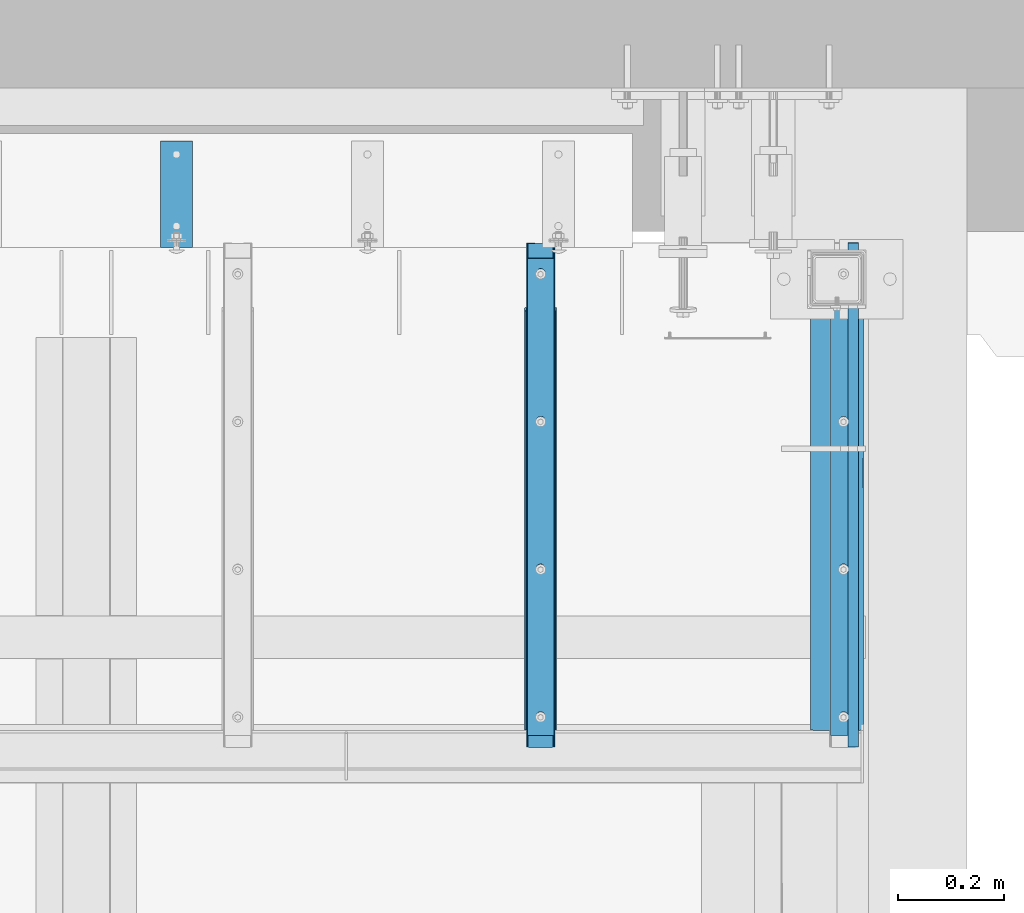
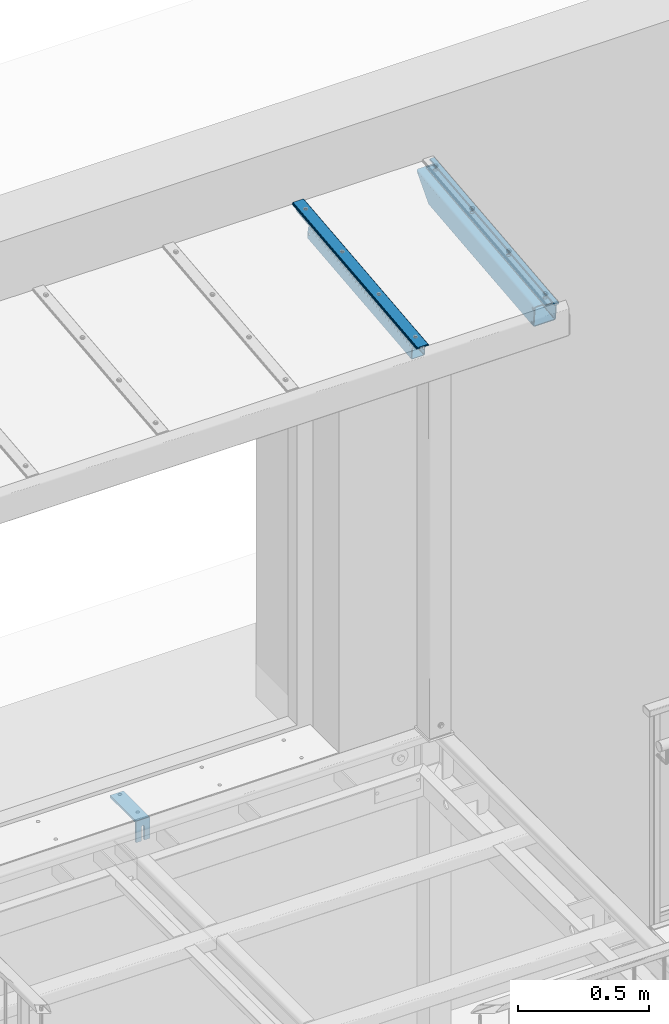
# One storey, part 20 of 116: 6 members, 1 beam, 17 openings.
"""IFC2X3 building model written with IfcOpenShell, lengths in millimetres."""

from ifc_helpers import new_model, entity, si_unit, converted_unit, point, frame, frame_2d, origin, origin_with_axes, origin_2d, origin_2d_with_axis, place, context, project, spatial, polyline, circle_curve, line_curve, trimmed, segment, composite_curve, rectangle, hollow_rectangle, circle, outline, extrude, clip, halfspace, material, element, save


model = new_model("IFC2X3")

# Units and contexts
model_context = context("Model", 3, precision=1e-09, world=origin_with_axes())
ifc_project = project(units=[si_unit("LENGTHUNIT", "METRE", prefix="MILLI"), si_unit("AREAUNIT", "SQUARE_METRE"), si_unit("VOLUMEUNIT", "CUBIC_METRE"), converted_unit("PLANEANGLEUNIT", "DEGREE", entity("IfcPlaneAngleMeasure", 0.01745329), si_unit("PLANEANGLEUNIT", "RADIAN"), dimensions=[0, 0, 0, 0, 0, 0, 0])], contexts=[model_context])

# Site, building, storey
site_placement = place(None, origin_with_axes())
site = spatial("IfcSite", under=ifc_project, at=site_placement, Name="Site", CompositionType="ELEMENT")
building_placement = place(site_placement, origin_with_axes())
building = spatial("IfcBuilding", under=site, at=building_placement, Name="Struktur 1", CompositionType="ELEMENT")
storey_placement = place(building_placement, origin_with_axes())
storey = spatial("IfcBuildingStorey", under=building, at=storey_placement, Name="Default Storey", CompositionType="ELEMENT", Elevation=0.0)

# Member, openings
ifc_material_1 = material(Name="S235JR")
member_1_placement = place(None, frame((58167.049134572, 12067.455432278, 2549.767412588), z_axis=(0.0, 0.994521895, 0.104528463), x_axis=(0.0, -0.104528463, 0.994521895)))
member_1 = element("IfcMember", 1, at=member_1_placement, inside=storey, material=ifc_material_1, Name="-", ObjectType="-", context=model_context, shape_type="Clipping", body=[
    clip(extrude(hollow_rectangle(XDim=100.0, YDim=100.0, WallThickness=4.0, InnerFilletRadius=4.0, OuterFilletRadius=8.0, at=origin_2d()), origin(), (0.0, 0.0, -1.0), 955.603150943), halfspace(frame((-6618.382172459, -58167.049134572, -7456.135013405), z_axis=(0.743144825, 0.0, -0.669130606), x_axis=(0.0, 1.0, 0.0)), True)),
])
opening_1_placement = place(member_1_placement, frame((28.999, -45.5, -945.603150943), z_axis=(0.0, 1.0, 0.0), x_axis=(-1.0, 0.0, 0.0)))
element("IfcOpeningElement", 2, at=opening_1_placement, cuts=member_1, ObjectType="Opening", context=model_context, shape_type="SweptSolid", body=[
    extrude(circle(Radius=6.001, at=frame_2d((-6.001, 0.0), x_axis=(1.0, 0.0))), origin(), (0.0, 0.0, -1.0), 5.0),
])
opening_2_placement = place(member_1_placement, frame((-41.001, -45.5, -945.603150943), z_axis=(0.0, 1.0, 0.0), x_axis=(-1.0, 0.0, 0.0)))
element("IfcOpeningElement", 3, at=opening_2_placement, cuts=member_1, ObjectType="Opening", context=model_context, shape_type="SweptSolid", body=[
    extrude(circle(Radius=6.001, at=frame_2d((-6.001, 0.0), x_axis=(1.0, 0.0))), origin(), (0.0, 0.0, -1.0), 5.0),
])

# Member
ifc_material_2 = material(Name="Alu")
member_2_placement = place(None, frame((58197.549134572, 12030.977969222, 2604.011634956), z_axis=(0.0, -0.994521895, -0.104528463), x_axis=(0.0, -0.104528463, 0.994521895)))
element("IfcMember", 4, at=member_2_placement, inside=storey, material=ifc_material_2, Name="-", ObjectType="-", context=model_context, shape_type="SweptSolid", body=[
    extrude(rectangle(XDim=8.0, YDim=20.0, at=origin_2d()), origin(), (0.0, 0.0, 1.0), 954.99558045),
])

# Member, openings
member_3_placement = place(None, frame((57608.549134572, 11905.637117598, 2552.869787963), z_axis=(0.0, 0.994521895, 0.104528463), x_axis=(0.0, -0.104528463, 0.994521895)))
member_3 = element("IfcMember", 5, at=member_3_placement, inside=storey, material=ifc_material_1, Name="-", ObjectType="-", context=model_context, shape_type="SweptSolid", body=[
    extrude(hollow_rectangle(XDim=60.0, YDim=60.0, WallThickness=3.0, InnerFilletRadius=3.0, OuterFilletRadius=6.0, at=origin_2d()), origin(), (0.0, 0.0, -1.0), 794.995580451),
])
opening_3_placement = place(member_3_placement, frame((0.0, -26.5, 0.0), z_axis=(0.0, -1.0, 0.0), x_axis=(1.0, 0.0, 0.0)))
element("IfcOpeningElement", 6, at=opening_3_placement, cuts=member_3, ObjectType="Opening", context=model_context, shape_type="SweptSolid", body=[
    extrude(circle(Radius=6.001, at=frame_2d((0.0, -10.0), x_axis=(1.0, 0.0))), origin(), (0.0, 0.0, 1.0), 4.0),
])
opening_4_placement = place(member_3_placement, frame((0.0, 26.5, -794.995580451), z_axis=(0.0, 1.0, 0.0), x_axis=(1.0, 0.0, 0.0)))
element("IfcOpeningElement", 7, at=opening_4_placement, cuts=member_3, ObjectType="Opening", context=model_context, shape_type="SweptSolid", body=[
    extrude(circle(Radius=6.001, at=frame_2d((0.0, -10.0), x_axis=(1.0, 0.0))), origin(), (0.0, 0.0, 1.0), 4.0),
])

member_4_placement = place(None, frame((57608.549134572, 11101.758740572, 2500.052276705), z_axis=(0.0, -0.994521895, -0.104528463), x_axis=(1.0, 0.0, 0.0)))
member_4 = element("IfcMember", 8, at=member_4_placement, inside=storey, material=ifc_material_1, Name="-", ObjectType="-", context=model_context, shape_type="SweptSolid", body=[
    extrude(outline(polyline([(-25.0, 1.5), (-25.0, -1.5), (25.0, -1.5), (25.0, 1.5), (-25.0, 1.5)])), origin(), (0.0, 0.0, -1.0), 904.995580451),
])
opening_5_placement = place(member_4_placement, frame((2e-09, -2.0, -597.497790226), z_axis=(0.0, 1.0, 0.0), x_axis=(1.0, 0.0, 0.0)))
element("IfcOpeningElement", 9, at=opening_5_placement, cuts=member_4, ObjectType="Opening", context=model_context, shape_type="SweptSolid", body=[
    extrude(circle(Radius=8.001, at=origin_2d_with_axis()), origin(), (0.0, 0.0, 1.0), 4.0),
])
opening_6_placement = place(member_4_placement, frame((2e-09, -2.0, -37.497790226), z_axis=(0.0, 1.0, 0.0), x_axis=(1.0, 0.0, 0.0)))
element("IfcOpeningElement", 10, at=opening_6_placement, cuts=member_4, ObjectType="Opening", context=model_context, shape_type="SweptSolid", body=[
    extrude(circle(Radius=8.001, at=origin_2d_with_axis()), origin(), (0.0, 0.0, 1.0), 4.0),
])
opening_7_placement = place(member_4_placement, frame((2e-09, -2.0, -877.497790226), z_axis=(0.0, 1.0, 0.0), x_axis=(1.0, 0.0, 0.0)))
element("IfcOpeningElement", 11, at=opening_7_placement, cuts=member_4, ObjectType="Opening", context=model_context, shape_type="SweptSolid", body=[
    extrude(circle(Radius=8.001, at=origin_2d_with_axis()), origin(), (0.0, 0.0, 1.0), 4.0),
])
opening_8_placement = place(member_4_placement, frame((2e-09, -2.0, -317.497790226), z_axis=(0.0, 1.0, 0.0), x_axis=(1.0, 0.0, 0.0)))
element("IfcOpeningElement", 12, at=opening_8_placement, cuts=member_4, ObjectType="Opening", context=model_context, shape_type="SweptSolid", body=[
    extrude(circle(Radius=8.001, at=origin_2d_with_axis()), origin(), (0.0, 0.0, 1.0), 4.0),
])

member_5_placement = place(None, frame((57608.549134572, 11080.325462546, 2512.640850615), z_axis=(0.0, -0.994521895, -0.104528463), x_axis=(1.0, 0.0, 0.0)))
member_5 = element("IfcMember", 13, at=member_5_placement, inside=storey, material=ifc_material_1, Name="-", ObjectType="-", context=model_context, shape_type="SweptSolid", body=[
    extrude(outline(composite_curve([segment(trimmed(line_curve((10.75, -4.5), (1.0, 0.0), 0.5), [point((10.75, -4.5))], [point((11.25, -4.5))], True, "CARTESIAN"), True, "CONTINUOUS"), segment(trimmed(line_curve((11.25, -4.5), (0.0, 1.0), 1.0), [point((11.25, -4.5))], [point((11.25, -3.5))], True, "CARTESIAN"), True, "CONTINUOUS"), segment(trimmed(line_curve((11.25, -3.5), (1.0, 0.0), 1.0), [point((11.25, -3.5))], [point((12.25, -3.5))], True, "CARTESIAN"), True, "CONTINUOUS"), segment(trimmed(line_curve((12.25, -3.5), (0.0, -1.0), 1.0), [point((12.25, -3.5))], [point((12.25, -4.5))], True, "CARTESIAN"), True, "CONTINUOUS"), segment(trimmed(line_curve((12.25, -4.5), (1.0, 0.0), 1.0), [point((12.25, -4.5))], [point((13.25, -4.5))], True, "CARTESIAN"), True, "CONTINUOUS"), segment(trimmed(line_curve((13.25, -4.5), (0.0, 1.0), 1.0), [point((13.25, -4.5))], [point((13.25, -3.5))], True, "CARTESIAN"), True, "CONTINUOUS"), segment(trimmed(line_curve((13.25, -3.5), (1.0, 0.0), 1.0), [point((13.25, -3.5))], [point((14.25, -3.5))], True, "CARTESIAN"), True, "CONTINUOUS"), segment(trimmed(line_curve((14.25, -3.5), (0.0, -1.0), 1.0), [point((14.25, -3.5))], [point((14.25, -4.5))], True, "CARTESIAN"), True, "CONTINUOUS"), segment(trimmed(line_curve((14.25, -4.5), (1.0, 0.0), 1.0), [point((14.25, -4.5))], [point((15.25, -4.5))], True, "CARTESIAN"), True, "CONTINUOUS"), segment(trimmed(line_curve((15.25, -4.5), (0.0, 1.0), 1.0), [point((15.25, -4.5))], [point((15.25, -3.5))], True, "CARTESIAN"), True, "CONTINUOUS"), segment(trimmed(line_curve((15.25, -3.5), (1.0, 0.0), 1.0), [point((15.25, -3.5))], [point((16.25, -3.5))], True, "CARTESIAN"), True, "CONTINUOUS"), segment(trimmed(line_curve((16.25, -3.5), (0.0, -1.0), 1.0), [point((16.25, -3.5))], [point((16.25, -4.5))], True, "CARTESIAN"), True, "CONTINUOUS"), segment(trimmed(line_curve((16.25, -4.5), (1.0, 0.0), 1.0), [point((16.25, -4.5))], [point((17.25, -4.5))], True, "CARTESIAN"), True, "CONTINUOUS"), segment(trimmed(line_curve((17.25, -4.5), (0.0, 1.0), 1.0), [point((17.25, -4.5))], [point((17.25, -3.5))], True, "CARTESIAN"), True, "CONTINUOUS"), segment(trimmed(line_curve((17.25, -3.5), (1.0, 0.0), 1.0), [point((17.25, -3.5))], [point((18.25, -3.5))], True, "CARTESIAN"), True, "CONTINUOUS"), segment(trimmed(line_curve((18.25, -3.5), (0.0, -1.0), 1.0), [point((18.25, -3.5))], [point((18.25, -4.5))], True, "CARTESIAN"), True, "CONTINUOUS"), segment(trimmed(line_curve((18.25, -4.5), (1.0, 0.0), 1.0), [point((18.25, -4.5))], [point((19.25, -4.5))], True, "CARTESIAN"), True, "CONTINUOUS"), segment(trimmed(line_curve((19.25, -4.5), (0.0, 1.0), 1.0), [point((19.25, -4.5))], [point((19.25, -3.5))], True, "CARTESIAN"), True, "CONTINUOUS"), segment(trimmed(line_curve((19.25, -3.5), (1.0, 0.0), 1.0), [point((19.25, -3.5))], [point((20.25, -3.5))], True, "CARTESIAN"), True, "CONTINUOUS"), segment(trimmed(line_curve((20.25, -3.5), (0.0, -1.0), 1.0), [point((20.25, -3.5))], [point((20.25, -4.5))], True, "CARTESIAN"), True, "CONTINUOUS"), segment(trimmed(line_curve((20.25, -4.5), (1.0, 0.0), 1.0), [point((20.25, -4.5))], [point((21.25, -4.5))], True, "CARTESIAN"), True, "CONTINUOUS"), segment(trimmed(line_curve((21.25, -4.5), (0.0, 1.0), 1.0), [point((21.25, -4.5))], [point((21.25, -3.5))], True, "CARTESIAN"), True, "CONTINUOUS"), segment(trimmed(line_curve((21.25, -3.5), (1.0, 0.0), 1.0), [point((21.25, -3.5))], [point((22.25, -3.5))], True, "CARTESIAN"), True, "CONTINUOUS"), segment(trimmed(line_curve((22.25, -3.5), (0.0, -1.0), 1.0), [point((22.25, -3.5))], [point((22.25, -4.5))], True, "CARTESIAN"), True, "CONTINUOUS"), segment(trimmed(line_curve((22.25, -4.5), (1.0, 0.0), 1.0), [point((22.25, -4.5))], [point((23.25, -4.5))], True, "CARTESIAN"), True, "CONTINUOUS"), segment(trimmed(line_curve((23.25, -4.5), (0.0, 1.0), 1.0), [point((23.25, -4.5))], [point((23.25, -3.5))], True, "CARTESIAN"), True, "CONTINUOUS"), segment(trimmed(line_curve((23.25, -3.5), (1.0, 0.0), 1.0), [point((23.25, -3.5))], [point((24.25, -3.5))], True, "CARTESIAN"), True, "CONTINUOUS"), segment(trimmed(line_curve((24.25, -3.5), (0.0, -1.0), 1.0), [point((24.25, -3.5))], [point((24.25, -4.5))], True, "CARTESIAN"), True, "CONTINUOUS"), segment(trimmed(line_curve((24.25, -4.5), (1.0, 0.0), 1.0), [point((24.25, -4.5))], [point((25.25, -4.5))], True, "CARTESIAN"), True, "CONTINUOUS"), segment(trimmed(line_curve((25.25, -4.5), (0.0, 1.0), 1.0), [point((25.25, -4.5))], [point((25.25, -3.5))], True, "CARTESIAN"), True, "CONTINUOUS"), segment(trimmed(line_curve((25.25, -3.5), (1.0, 0.0), 1.0), [point((25.25, -3.5))], [point((26.25, -3.5))], True, "CARTESIAN"), True, "CONTINUOUS"), segment(trimmed(line_curve((26.25, -3.5), (0.0, -1.0), 1.0), [point((26.25, -3.5))], [point((26.25, -4.5))], True, "CARTESIAN"), True, "CONTINUOUS"), segment(trimmed(line_curve((26.25, -4.5), (1.0, 0.0), 0.5), [point((26.25, -4.5))], [point((26.75, -4.5))], True, "CARTESIAN"), True, "CONTINUOUS"), segment(trimmed(line_curve((26.75, -4.5), (0.0, 1.0), 4.0), [point((26.75, -4.5))], [point((26.75, -0.5))], True, "CARTESIAN"), True, "CONTINUOUS"), segment(trimmed(line_curve((26.75, -0.5), (-1.0, 0.0), 1.75), [point((26.75, -0.5))], [point((25.0, -0.5))], True, "CARTESIAN"), True, "CONTINUOUS"), segment(trimmed(line_curve((25.0, -0.5), (0.0, 1.0), 1.5), [point((25.0, -0.5))], [point((25.0, 1.0))], True, "CARTESIAN"), True, "CONTINUOUS"), segment(trimmed(circle_curve(frame_2d((21.499999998, 0.999999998), x_axis=(1.0, 0.0)), 3.500000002), [point((25.0, 1.0))], [point((21.5, 4.5))], True, "CARTESIAN"), True, "CONTINUOUS"), segment(trimmed(line_curve((21.5, 4.5), (-1.0, 0.0), 43.0), [point((21.5, 4.5))], [point((-21.5, 4.5))], True, "CARTESIAN"), True, "CONTINUOUS"), segment(trimmed(circle_curve(frame_2d((-21.499999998, 0.999999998), x_axis=(1.0, 0.0)), 3.500000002), [point((-21.5, 4.5))], [point((-25.0, 1.0))], True, "CARTESIAN"), True, "CONTINUOUS"), segment(trimmed(line_curve((-25.0, 1.0), (0.0, -1.0), 1.5), [point((-25.0, 1.0))], [point((-25.0, -0.5))], True, "CARTESIAN"), True, "CONTINUOUS"), segment(trimmed(line_curve((-25.0, -0.5), (-1.0, 0.0), 1.75), [point((-25.0, -0.5))], [point((-26.75, -0.5))], True, "CARTESIAN"), True, "CONTINUOUS"), segment(trimmed(line_curve((-26.75, -0.5), (0.0, -1.0), 4.0), [point((-26.75, -0.5))], [point((-26.75, -4.5))], True, "CARTESIAN"), True, "CONTINUOUS"), segment(trimmed(line_curve((-26.75, -4.5), (1.0, 0.0), 0.5), [point((-26.75, -4.5))], [point((-26.25, -4.5))], True, "CARTESIAN"), True, "CONTINUOUS"), segment(trimmed(line_curve((-26.25, -4.5), (0.0, 1.0), 1.0), [point((-26.25, -4.5))], [point((-26.25, -3.5))], True, "CARTESIAN"), True, "CONTINUOUS"), segment(trimmed(line_curve((-26.25, -3.5), (1.0, 0.0), 1.0), [point((-26.25, -3.5))], [point((-25.25, -3.5))], True, "CARTESIAN"), True, "CONTINUOUS"), segment(trimmed(line_curve((-25.25, -3.5), (0.0, -1.0), 1.0), [point((-25.25, -3.5))], [point((-25.25, -4.5))], True, "CARTESIAN"), True, "CONTINUOUS"), segment(trimmed(line_curve((-25.25, -4.5), (1.0, 0.0), 1.0), [point((-25.25, -4.5))], [point((-24.25, -4.5))], True, "CARTESIAN"), True, "CONTINUOUS"), segment(trimmed(line_curve((-24.25, -4.5), (0.0, 1.0), 1.0), [point((-24.25, -4.5))], [point((-24.25, -3.5))], True, "CARTESIAN"), True, "CONTINUOUS"), segment(trimmed(line_curve((-24.25, -3.5), (1.0, 0.0), 1.0), [point((-24.25, -3.5))], [point((-23.25, -3.5))], True, "CARTESIAN"), True, "CONTINUOUS"), segment(trimmed(line_curve((-23.25, -3.5), (0.0, -1.0), 1.0), [point((-23.25, -3.5))], [point((-23.25, -4.5))], True, "CARTESIAN"), True, "CONTINUOUS"), segment(trimmed(line_curve((-23.25, -4.5), (1.0, 0.0), 1.0), [point((-23.25, -4.5))], [point((-22.25, -4.5))], True, "CARTESIAN"), True, "CONTINUOUS"), segment(trimmed(line_curve((-22.25, -4.5), (0.0, 1.0), 1.0), [point((-22.25, -4.5))], [point((-22.25, -3.5))], True, "CARTESIAN"), True, "CONTINUOUS"), segment(trimmed(line_curve((-22.25, -3.5), (1.0, 0.0), 1.0), [point((-22.25, -3.5))], [point((-21.25, -3.5))], True, "CARTESIAN"), True, "CONTINUOUS"), segment(trimmed(line_curve((-21.25, -3.5), (0.0, -1.0), 1.0), [point((-21.25, -3.5))], [point((-21.25, -4.5))], True, "CARTESIAN"), True, "CONTINUOUS"), segment(trimmed(line_curve((-21.25, -4.5), (1.0, 0.0), 1.0), [point((-21.25, -4.5))], [point((-20.25, -4.5))], True, "CARTESIAN"), True, "CONTINUOUS"), segment(trimmed(line_curve((-20.25, -4.5), (0.0, 1.0), 1.0), [point((-20.25, -4.5))], [point((-20.25, -3.5))], True, "CARTESIAN"), True, "CONTINUOUS"), segment(trimmed(line_curve((-20.25, -3.5), (1.0, 0.0), 1.0), [point((-20.25, -3.5))], [point((-19.25, -3.5))], True, "CARTESIAN"), True, "CONTINUOUS"), segment(trimmed(line_curve((-19.25, -3.5), (0.0, -1.0), 1.0), [point((-19.25, -3.5))], [point((-19.25, -4.5))], True, "CARTESIAN"), True, "CONTINUOUS"), segment(trimmed(line_curve((-19.25, -4.5), (1.0, 0.0), 1.0), [point((-19.25, -4.5))], [point((-18.25, -4.5))], True, "CARTESIAN"), True, "CONTINUOUS"), segment(trimmed(line_curve((-18.25, -4.5), (0.0, 1.0), 1.0), [point((-18.25, -4.5))], [point((-18.25, -3.5))], True, "CARTESIAN"), True, "CONTINUOUS"), segment(trimmed(line_curve((-18.25, -3.5), (1.0, 0.0), 1.0), [point((-18.25, -3.5))], [point((-17.25, -3.5))], True, "CARTESIAN"), True, "CONTINUOUS"), segment(trimmed(line_curve((-17.25, -3.5), (0.0, -1.0), 1.0), [point((-17.25, -3.5))], [point((-17.25, -4.5))], True, "CARTESIAN"), True, "CONTINUOUS"), segment(trimmed(line_curve((-17.25, -4.5), (1.0, 0.0), 1.0), [point((-17.25, -4.5))], [point((-16.25, -4.5))], True, "CARTESIAN"), True, "CONTINUOUS"), segment(trimmed(line_curve((-16.25, -4.5), (0.0, 1.0), 1.0), [point((-16.25, -4.5))], [point((-16.25, -3.5))], True, "CARTESIAN"), True, "CONTINUOUS"), segment(trimmed(line_curve((-16.25, -3.5), (1.0, 0.0), 1.0), [point((-16.25, -3.5))], [point((-15.25, -3.5))], True, "CARTESIAN"), True, "CONTINUOUS"), segment(trimmed(line_curve((-15.25, -3.5), (0.0, -1.0), 1.0), [point((-15.25, -3.5))], [point((-15.25, -4.5))], True, "CARTESIAN"), True, "CONTINUOUS"), segment(trimmed(line_curve((-15.25, -4.5), (1.0, 0.0), 1.0), [point((-15.25, -4.5))], [point((-14.25, -4.5))], True, "CARTESIAN"), True, "CONTINUOUS"), segment(trimmed(line_curve((-14.25, -4.5), (0.0, 1.0), 1.0), [point((-14.25, -4.5))], [point((-14.25, -3.5))], True, "CARTESIAN"), True, "CONTINUOUS"), segment(trimmed(line_curve((-14.25, -3.5), (1.0, 0.0), 1.0), [point((-14.25, -3.5))], [point((-13.25, -3.5))], True, "CARTESIAN"), True, "CONTINUOUS"), segment(trimmed(line_curve((-13.25, -3.5), (0.0, -1.0), 1.0), [point((-13.25, -3.5))], [point((-13.25, -4.5))], True, "CARTESIAN"), True, "CONTINUOUS"), segment(trimmed(line_curve((-13.25, -4.5), (1.0, 0.0), 1.0), [point((-13.25, -4.5))], [point((-12.25, -4.5))], True, "CARTESIAN"), True, "CONTINUOUS"), segment(trimmed(line_curve((-12.25, -4.5), (0.0, 1.0), 1.0), [point((-12.25, -4.5))], [point((-12.25, -3.5))], True, "CARTESIAN"), True, "CONTINUOUS"), segment(trimmed(line_curve((-12.25, -3.5), (1.0, 0.0), 1.0), [point((-12.25, -3.5))], [point((-11.25, -3.5))], True, "CARTESIAN"), True, "CONTINUOUS"), segment(trimmed(line_curve((-11.25, -3.5), (0.0, -1.0), 1.0), [point((-11.25, -3.5))], [point((-11.25, -4.5))], True, "CARTESIAN"), True, "CONTINUOUS"), segment(trimmed(line_curve((-11.25, -4.5), (1.0, 0.0), 0.5), [point((-11.25, -4.5))], [point((-10.75, -4.5))], True, "CARTESIAN"), True, "CONTINUOUS"), segment(trimmed(line_curve((-10.75, -4.5), (0.0, 1.0), 4.0), [point((-10.75, -4.5))], [point((-10.75, -0.5))], True, "CARTESIAN"), True, "CONTINUOUS"), segment(trimmed(line_curve((-10.75, -0.5), (-1.0, 0.0), 1.75), [point((-10.75, -0.5))], [point((-12.5, -0.5))], True, "CARTESIAN"), True, "CONTINUOUS"), segment(trimmed(line_curve((-12.5, -0.5), (0.0, 1.0), 3.0), [point((-12.5, -0.5))], [point((-12.5, 2.5))], True, "CARTESIAN"), True, "CONTINUOUS"), segment(trimmed(line_curve((-12.5, 2.5), (1.0, 0.0), 25.0), [point((-12.5, 2.5))], [point((12.5, 2.5))], True, "CARTESIAN"), True, "CONTINUOUS"), segment(trimmed(line_curve((12.5, 2.5), (0.0, -1.0), 3.0), [point((12.5, 2.5))], [point((12.5, -0.5))], True, "CARTESIAN"), True, "CONTINUOUS"), segment(trimmed(line_curve((12.5, -0.5), (-1.0, 0.0), 1.75), [point((12.5, -0.5))], [point((10.75, -0.5))], True, "CARTESIAN"), True, "CONTINUOUS"), segment(trimmed(line_curve((10.75, -0.5), (0.0, -1.0), 4.0), [point((10.75, -0.5))], [point((10.75, -4.5))], True, "CARTESIAN"), True, "CONTINUOUS")], self_intersect=False), holes=[composite_curve([segment(trimmed(line_curve((16.25, -0.5), (1.0, 0.0), 5.0), [point((16.25, -0.5))], [point((21.25, -0.5))], True, "CARTESIAN"), True, "CONTINUOUS"), segment(trimmed(line_curve((21.25, -0.5), (0.0, 1.0), 1.5), [point((21.25, -0.5))], [point((21.25, 1.0))], True, "CARTESIAN"), True, "CONTINUOUS"), segment(trimmed(line_curve((21.25, 1.0), (1.0, 0.0), 2.25), [point((21.25, 1.0))], [point((23.5, 1.0))], True, "CARTESIAN"), True, "CONTINUOUS"), segment(trimmed(circle_curve(frame_2d((21.499999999, 0.999999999), x_axis=(1.0, 0.0)), 2.000000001), [point((23.5, 1.0))], [point((21.5, 3.0))], True, "CARTESIAN"), True, "CONTINUOUS"), segment(trimmed(line_curve((21.5, 3.0), (-1.0, 0.0), 7.5), [point((21.5, 3.0))], [point((14.0, 3.0))], True, "CARTESIAN"), True, "CONTINUOUS"), segment(trimmed(line_curve((14.0, 3.0), (0.0, -1.0), 2.0), [point((14.0, 3.0))], [point((14.0, 1.0))], True, "CARTESIAN"), True, "CONTINUOUS"), segment(trimmed(line_curve((14.0, 1.0), (1.0, 0.0), 2.25), [point((14.0, 1.0))], [point((16.25, 1.0))], True, "CARTESIAN"), True, "CONTINUOUS"), segment(trimmed(line_curve((16.25, 1.0), (0.0, -1.0), 1.5), [point((16.25, 1.0))], [point((16.25, -0.5))], True, "CARTESIAN"), True, "CONTINUOUS")], self_intersect=False), composite_curve([segment(trimmed(line_curve((-16.25, -0.5), (0.0, 1.0), 1.5), [point((-16.25, -0.5))], [point((-16.25, 1.0))], True, "CARTESIAN"), True, "CONTINUOUS"), segment(trimmed(line_curve((-16.25, 1.0), (1.0, 0.0), 2.25), [point((-16.25, 1.0))], [point((-14.0, 1.0))], True, "CARTESIAN"), True, "CONTINUOUS"), segment(trimmed(line_curve((-14.0, 1.0), (0.0, 1.0), 2.0), [point((-14.0, 1.0))], [point((-14.0, 3.0))], True, "CARTESIAN"), True, "CONTINUOUS"), segment(trimmed(line_curve((-14.0, 3.0), (-1.0, 0.0), 7.5), [point((-14.0, 3.0))], [point((-21.5, 3.0))], True, "CARTESIAN"), True, "CONTINUOUS"), segment(trimmed(circle_curve(frame_2d((-21.499999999, 0.999999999), x_axis=(1.0, 0.0)), 2.000000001), [point((-21.5, 3.0))], [point((-23.5, 1.0))], True, "CARTESIAN"), True, "CONTINUOUS"), segment(trimmed(line_curve((-23.5, 1.0), (1.0, 0.0), 2.25), [point((-23.5, 1.0))], [point((-21.25, 1.0))], True, "CARTESIAN"), True, "CONTINUOUS"), segment(trimmed(line_curve((-21.25, 1.0), (0.0, -1.0), 1.5), [point((-21.25, 1.0))], [point((-21.25, -0.5))], True, "CARTESIAN"), True, "CONTINUOUS"), segment(trimmed(line_curve((-21.25, -0.5), (1.0, 0.0), 5.0), [point((-21.25, -0.5))], [point((-16.25, -0.5))], True, "CARTESIAN"), True, "CONTINUOUS")], self_intersect=False)]), origin(), (0.0, 0.0, -1.0), 954.995580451),
])
opening_9_placement = place(member_5_placement, frame((2e-09, 2.0, -617.497790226), z_axis=(0.0, 1.0, 0.0), x_axis=(1.0, 0.0, 0.0)))
element("IfcOpeningElement", 14, at=opening_9_placement, cuts=member_5, ObjectType="Opening", context=model_context, shape_type="SweptSolid", body=[
    extrude(circle(Radius=6.001, at=origin_2d_with_axis()), origin(), (0.0, 0.0, 1.0), 3.0),
])
opening_10_placement = place(member_5_placement, frame((2e-09, 2.0, -337.497790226), z_axis=(0.0, 1.0, 0.0), x_axis=(1.0, 0.0, 0.0)))
element("IfcOpeningElement", 15, at=opening_10_placement, cuts=member_5, ObjectType="Opening", context=model_context, shape_type="SweptSolid", body=[
    extrude(circle(Radius=6.001, at=origin_2d_with_axis()), origin(), (0.0, 0.0, 1.0), 3.0),
])
opening_11_placement = place(member_5_placement, frame((2e-09, 2.0, -897.497790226), z_axis=(0.0, 1.0, 0.0), x_axis=(1.0, 0.0, 0.0)))
element("IfcOpeningElement", 16, at=opening_11_placement, cuts=member_5, ObjectType="Opening", context=model_context, shape_type="SweptSolid", body=[
    extrude(circle(Radius=6.001, at=origin_2d_with_axis()), origin(), (0.0, 0.0, 1.0), 3.0),
])
opening_12_placement = place(member_5_placement, frame((2e-09, 2.0, -57.497790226), z_axis=(0.0, 1.0, 0.0), x_axis=(1.0, 0.0, 0.0)))
element("IfcOpeningElement", 17, at=opening_12_placement, cuts=member_5, ObjectType="Opening", context=model_context, shape_type="SweptSolid", body=[
    extrude(circle(Radius=6.001, at=origin_2d_with_axis()), origin(), (0.0, 0.0, 1.0), 3.0),
])

member_6_placement = place(None, frame((58179.549134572, 11101.758740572, 2500.052276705), z_axis=(0.0, -0.994521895, -0.104528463), x_axis=(1.0, 0.0, 0.0)))
member_6 = element("IfcMember", 18, at=member_6_placement, inside=storey, material=ifc_material_1, Name="-", ObjectType="-", context=model_context, shape_type="SweptSolid", body=[
    extrude(outline(polyline([(-25.0, 1.5), (-25.0, -1.5), (25.0, -1.5), (25.0, 1.5), (-25.0, 1.5)])), origin(), (0.0, 0.0, -1.0), 904.995580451),
])
opening_13_placement = place(member_6_placement, frame((2e-09, -2.0, -877.497790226), z_axis=(0.0, 1.0, 0.0), x_axis=(1.0, 0.0, 0.0)))
element("IfcOpeningElement", 19, at=opening_13_placement, cuts=member_6, ObjectType="Opening", context=model_context, shape_type="SweptSolid", body=[
    extrude(circle(Radius=8.001, at=origin_2d_with_axis()), origin(), (0.0, 0.0, 1.0), 4.0),
])
opening_14_placement = place(member_6_placement, frame((2e-09, -2.0, -37.497790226), z_axis=(0.0, 1.0, 0.0), x_axis=(1.0, 0.0, 0.0)))
element("IfcOpeningElement", 20, at=opening_14_placement, cuts=member_6, ObjectType="Opening", context=model_context, shape_type="SweptSolid", body=[
    extrude(circle(Radius=8.001, at=origin_2d_with_axis()), origin(), (0.0, 0.0, 1.0), 4.0),
])
opening_15_placement = place(member_6_placement, frame((2e-09, -2.0, -317.497790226), z_axis=(0.0, 1.0, 0.0), x_axis=(1.0, 0.0, 0.0)))
element("IfcOpeningElement", 21, at=opening_15_placement, cuts=member_6, ObjectType="Opening", context=model_context, shape_type="SweptSolid", body=[
    extrude(circle(Radius=8.001, at=origin_2d_with_axis()), origin(), (0.0, 0.0, 1.0), 4.0),
])
opening_16_placement = place(member_6_placement, frame((2e-09, -2.0, -597.497790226), z_axis=(0.0, 1.0, 0.0), x_axis=(1.0, 0.0, 0.0)))
element("IfcOpeningElement", 22, at=opening_16_placement, cuts=member_6, ObjectType="Opening", context=model_context, shape_type="SweptSolid", body=[
    extrude(circle(Radius=8.001, at=origin_2d_with_axis()), origin(), (0.0, 0.0, 1.0), 4.0),
])

# Beam, opening
beam_placement = place(None, frame((56892.050634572, 12122.358883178, -63.0), z_axis=(1.0, 0.0, 0.0), x_axis=(0.0, 1.0, 0.0)))
beam = element("IfcBeam", 23, at=beam_placement, inside=storey, material=ifc_material_2, Name="-", ObjectType="-", context=model_context, shape_type="SweptSolid", body=[
    extrude(outline(polyline([(-100.0, -50.0), (-90.0, -50.0), (-90.0, 40.0), (100.0, 40.0), (100.0, 50.0), (-100.0, 50.0), (-100.0, -50.0)])), origin(), (0.0, 0.0, 1.0), 60.0),
])
opening_17_placement = place(beam_placement, frame((-200.1, -53.501, 23.499), z_axis=(-1.0, 0.0, 0.0), x_axis=(0.0, -0.707106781, 0.707106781)))
element("IfcOpeningElement", 24, at=opening_17_placement, cuts=beam, ObjectType="Opening", context=model_context, shape_type="SweptSolid", body=[
    extrude(outline(composite_curve([segment(trimmed(circle_curve(frame_2d((4.596194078, 4.596194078), x_axis=(1.0, 0.0)), 6.5), [point((0.0, 0.0))], [point((9.192388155, 0.0))], True, "CARTESIAN"), True, "CONTINUOUS"), segment(trimmed(line_curve((9.192388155, 0.0), (0.707106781, 0.707106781), 0.002), [point((9.192388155, 0.0))], [point((9.193802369, 0.001414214))], True, "CARTESIAN"), True, "CONTINUOUS"), segment(trimmed(circle_curve(frame_2d((4.597608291, 4.597608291), x_axis=(1.0, 0.0)), 6.5), [point((9.193802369, 0.001414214))], [point((9.193802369, 9.193802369))], True, "CARTESIAN"), True, "CONTINUOUS"), segment(trimmed(line_curve((9.193802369, 9.193802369), (-0.707106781, 0.707106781), 67.002), [point((9.193802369, 9.193802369))], [point((-38.183766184, 56.571370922))], True, "CARTESIAN"), True, "CONTINUOUS"), segment(trimmed(circle_curve(frame_2d((-42.779960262, 51.975176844), x_axis=(1.0, 0.0)), 6.5), [point((-38.183766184, 56.571370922))], [point((-47.376154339, 56.571370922))], True, "CARTESIAN"), True, "CONTINUOUS"), segment(trimmed(line_curve((-47.376154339, 56.571370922), (-0.707106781, -0.707106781), 0.002), [point((-47.376154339, 56.571370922))], [point((-47.377568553, 56.569956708))], True, "CARTESIAN"), True, "CONTINUOUS"), segment(trimmed(circle_curve(frame_2d((-42.781374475, 51.973762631), x_axis=(1.0, 0.0)), 6.5), [point((-47.377568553, 56.569956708))], [point((-47.377568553, 47.377568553))], True, "CARTESIAN"), True, "CONTINUOUS"), segment(trimmed(line_curve((-47.377568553, 47.377568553), (0.707106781, -0.707106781), 67.002), [point((-47.377568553, 47.377568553))], [point((0.0, 0.0))], True, "CARTESIAN"), True, "CONTINUOUS")], self_intersect=False)), origin(), (0.0, 0.0, -1.0), 400.2),
])

save(model, "model.ifc")
